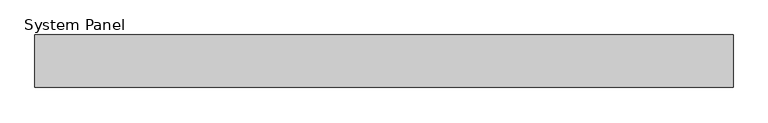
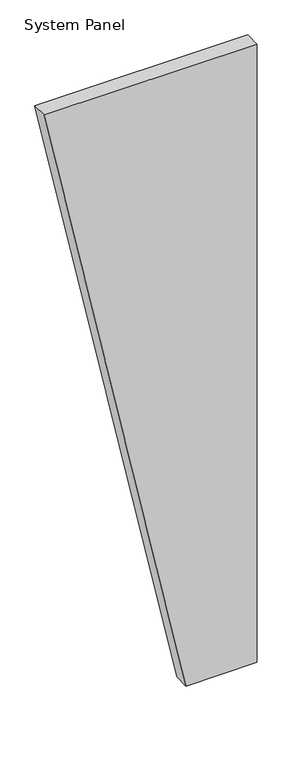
"""IFC4 building model written with IfcOpenShell, lengths in millimetres: plate geometry, System Panel : InsulWall_90mm_Plain_Surfmist."""

from ifc_helpers import new_model, si_unit, frame, origin, place, context, project, spatial, polyline, outline, extrude, source, transform, mapped, element, save


def system_panel_e583b7d1(model_context):
    return source(origin(), model_context, "Body", "SweptSolid", [
        extrude(outline(polyline([(0.0, 200.0), (0.0, 600.0), (3679.9704237, 600.0), (3679.9704237, -600.0), (0.0, 200.0)])), frame((0.0, -90.0, 0.0), z_axis=(0.0, 1.0, 0.0), x_axis=(0.0, 0.0, 1.0)), (0.0, 0.0, 1.0), 90.0),
    ])


if __name__ == "__main__":
    model = new_model("IFC4")
    model_context = context("Model", 3, world=origin())
    ifc_project = project(units=[si_unit("LENGTHUNIT", "METRE", prefix="MILLI")], contexts=[model_context])
    site = spatial("IfcSite", under=ifc_project)
    building = spatial("IfcBuilding", under=site)
    placement = place(None, origin())
    system_panel_shape = system_panel_e583b7d1(model_context)
    element("IfcPlate", 1, ObjectType="System Panel : InsulWall_90mm_Plain_Surfmist", at=placement, inside=building, context=model_context, shape_type="MappedRepresentation", body=[
        mapped(system_panel_shape, transform((0.0, 0.0, 0.0), x_axis=(1.0, 0.0, 0.0), y_axis=(0.0, 1.0, 0.0), z_axis=(0.0, 0.0, 1.0))),
    ])
    save(model, "model.ifc")
